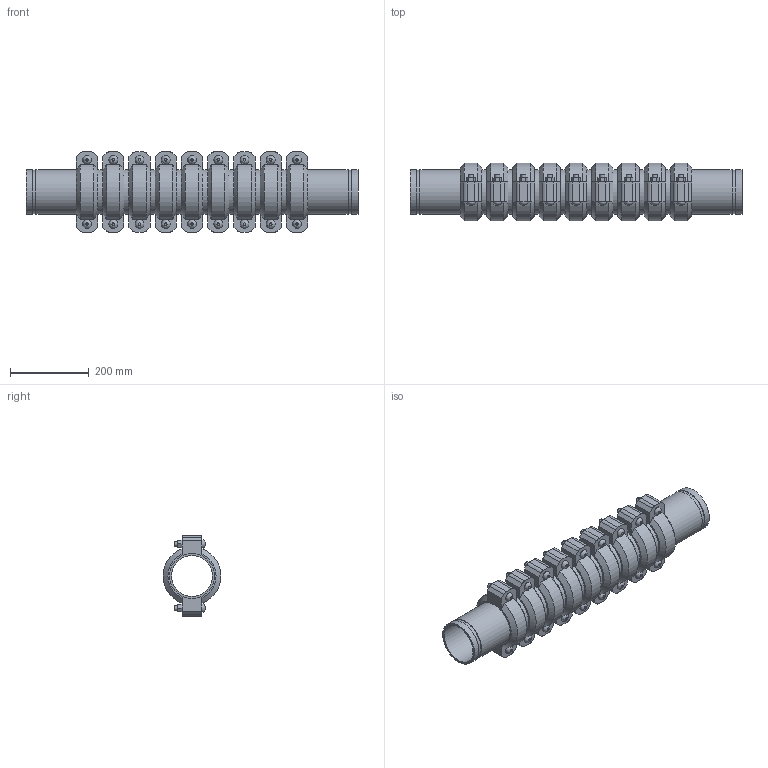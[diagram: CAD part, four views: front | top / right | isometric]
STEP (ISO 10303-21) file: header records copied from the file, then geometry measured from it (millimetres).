
FILE_DESCRIPTION(/* description */ ('VIC SS EXPANSION JOINT 9 COUPLINGS EXPANDED STYLE 155P (OGS) (POTABLE WATER) ','CAx-IF Rec.Pracs.---Representation and Presentation of Product Manufacturing Information (PMI)---4.0---2014-10-13'),/* implementation_level */ '2;1');
FILE_NAME(/* name */ 'C:\Users\kkamble\AppData\Roaming\Autodesk\ApplicationPlugins\Victaulic.Temp\A474\Victaulic_SS_Expansion Joint_Expanded_9 Couplings_Style 155P (OGS)-Potable Water_9 Coup_Expd_4 (100).stp',/* time_stamp */ '2021-07-16T16:57:56+05:00',/* author */ ('kkamble'),/* organization */ ('Victaulic'),/* preprocessor_version */ 'ST-DEVELOPER v17.2',/* originating_system */ 'Autodesk Inventor 2019',/* authorisation */ '');
FILE_SCHEMA (('AP242_MANAGED_MODEL_BASED_3D_ENGINEERING_MIM_LF { 1 0 10303 442 1 1 4 }'));
Length unit declared in the file: inch
Products named in the file (4): 155P-04.0; Nipple-04.0; Nipple-04.0_1; 075-04.0
Assembly tree (19 placements, depth 2):
  155P-04.0
    Nipple-04.0  x2
    Nipple-04.0_1  x8
    075-04.0  x9
Bounding box: 844.8 x 147.32 x 203.96 mm (x, y, z)
Volume: 5649878.9 mm3; surface area: 1323290.1 mm2
Topology: 19 solids, 37 shells, 633 faces, 1497 edges, 1050 vertices
Faces by surface type: plane 384, cylinder 195, cone 36, bspline 18
Full cylindrical faces by diameter (mm): 12.7 x36, 14.605 x18, 103.988 x10, 107.95 x9, 110.084 x20, 114.3 x48
Entity records: 2856 total; most frequent: CARTESIAN_POINT 503, DIRECTION 481, ORIENTED_EDGE 386, AXIS2_PLACEMENT_3D 194, EDGE_CURVE 193, VERTEX_POINT 138, EDGE_LOOP 107, LINE 93
